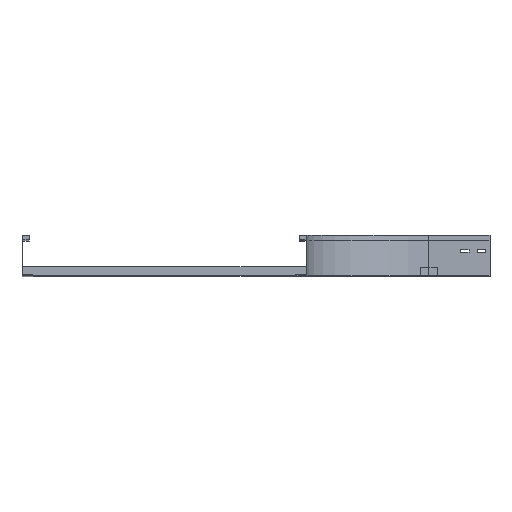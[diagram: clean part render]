
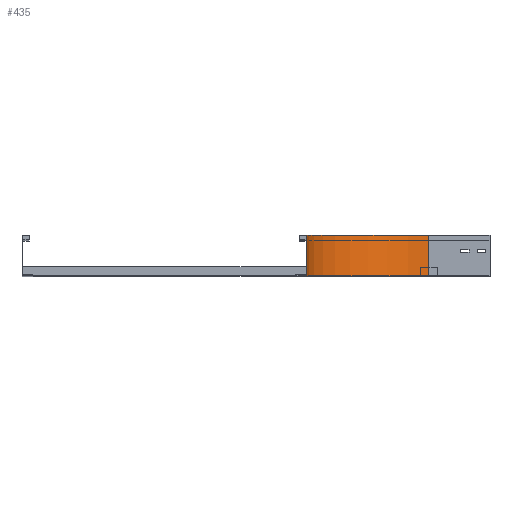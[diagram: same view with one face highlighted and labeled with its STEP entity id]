
A CAD part, top view. The second image highlights one B-rep face of the part: STEP entity #435.
In plain terms, the highlighted cylindrical face has radius 300 mm (diameter 600 mm), a partial arc.
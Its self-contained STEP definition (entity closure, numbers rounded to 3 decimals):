
#131 = VECTOR ( 'NONE', #2195, 1000. ) ;
#134 = ORIENTED_EDGE ( 'NONE', *, *, #787, .F. ) ;
#280 = ORIENTED_EDGE ( 'NONE', *, *, #3855, .T. ) ;
#349 = CARTESIAN_POINT ( 'NONE',  ( 0., 100., -150. ) ) ;
#422 = FACE_OUTER_BOUND ( 'NONE', #3722, .T. ) ;
#435 = ADVANCED_FACE ( 'NONE', ( #422 ), #3479, .F. ) ;
#482 = CARTESIAN_POINT ( 'NONE',  ( 300., 0., -150. ) ) ;
#624 = VERTEX_POINT ( 'NONE', #1398 ) ;
#787 = EDGE_CURVE ( 'NONE', #3790, #624, #3666, .T. ) ;
#1262 = ORIENTED_EDGE ( 'NONE', *, *, #2663, .T. ) ;
#1359 = EDGE_CURVE ( 'NONE', #2138, #3790, #3490, .T. ) ;
#1369 = CARTESIAN_POINT ( 'NONE',  ( 0., 0., -150. ) ) ;
#1398 = CARTESIAN_POINT ( 'NONE',  ( 300., 100., -450. ) ) ;
#1408 = DIRECTION ( 'NONE',  ( 0., 1., 0. ) ) ;
#1482 = AXIS2_PLACEMENT_3D ( 'NONE', #482, #3137, #1938 ) ;
#1493 = DIRECTION ( 'NONE',  ( 0., -1., 0. ) ) ;
#1562 = CARTESIAN_POINT ( 'NONE',  ( 300., 0., -450. ) ) ;
#1569 = AXIS2_PLACEMENT_3D ( 'NONE', #3417, #2526, #3720 ) ;
#1598 = CARTESIAN_POINT ( 'NONE',  ( 300., 0., -450. ) ) ;
#1617 = ORIENTED_EDGE ( 'NONE', *, *, #1359, .F. ) ;
#1938 = DIRECTION ( 'NONE',  ( 0., 0., -1. ) ) ;
#2131 = CARTESIAN_POINT ( 'NONE',  ( 300., 100., -150. ) ) ;
#2138 = VERTEX_POINT ( 'NONE', #2743 ) ;
#2141 = CIRCLE ( 'NONE', #1569, 300. ) ;
#2195 = DIRECTION ( 'NONE',  ( 0., 1., 0. ) ) ;
#2233 = VERTEX_POINT ( 'NONE', #1562 ) ;
#2526 = DIRECTION ( 'NONE',  ( 0., -1., 0. ) ) ;
#2663 = EDGE_CURVE ( 'NONE', #2138, #2233, #2141, .T. ) ;
#2695 = DIRECTION ( 'NONE',  ( -1., 0., 0. ) ) ;
#2743 = CARTESIAN_POINT ( 'NONE',  ( 0., 0., -150. ) ) ;
#3134 = LINE ( 'NONE', #1598, #131 ) ;
#3137 = DIRECTION ( 'NONE',  ( 0., -1., 0. ) ) ;
#3417 = CARTESIAN_POINT ( 'NONE',  ( 300., 0., -150. ) ) ;
#3479 = CYLINDRICAL_SURFACE ( 'NONE', #1482, 300. ) ;
#3490 = LINE ( 'NONE', #1369, #3567 ) ;
#3567 = VECTOR ( 'NONE', #1408, 1000. ) ;
#3666 = CIRCLE ( 'NONE', #3727, 300. ) ;
#3720 = DIRECTION ( 'NONE',  ( -1., 0., 0. ) ) ;
#3722 = EDGE_LOOP ( 'NONE', ( #134, #1617, #1262, #280 ) ) ;
#3727 = AXIS2_PLACEMENT_3D ( 'NONE', #2131, #1493, #2695 ) ;
#3790 = VERTEX_POINT ( 'NONE', #349 ) ;
#3855 = EDGE_CURVE ( 'NONE', #2233, #624, #3134, .T. ) ;
